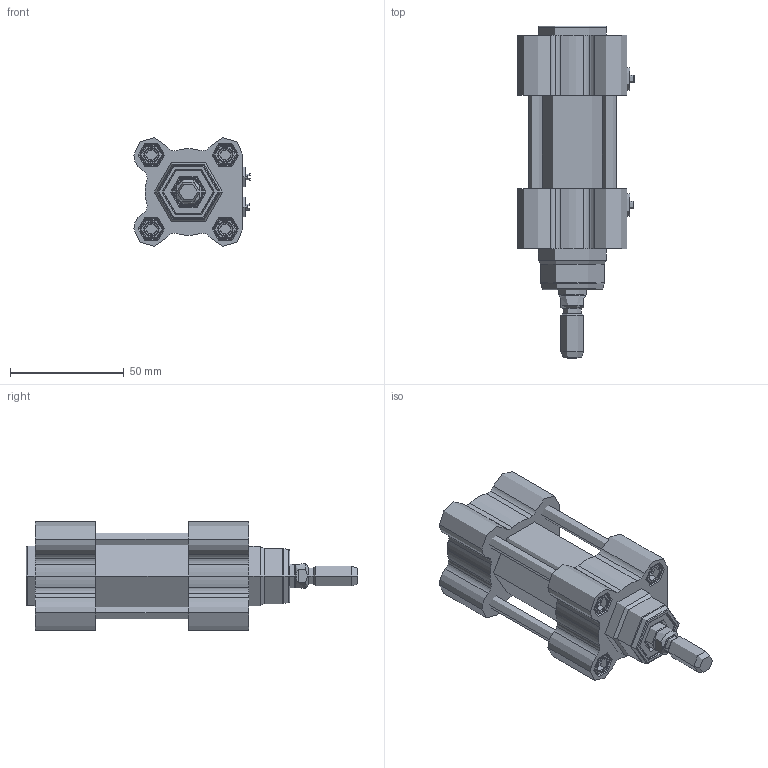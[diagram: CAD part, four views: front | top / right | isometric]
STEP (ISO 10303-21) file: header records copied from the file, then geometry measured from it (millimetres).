
FILE_DESCRIPTION(('STEP AP214'),'1');
FILE_NAME('81M32A0000.stp','2016-07-11T07:14:56',(' '),(' '),'Spatial InterOp 3D',' ',' ');
FILE_SCHEMA(('automotive_design'));
Length unit declared in the file: millimetre
Products named in the file (6): 81M32A0000; CORPO-000; TP; STELO-000; TA; TIRANTE-000
Assembly tree (8 placements, depth 2):
  81M32A0000
    CORPO-000
    TP
    STELO-000
    TA
    TIRANTE-000  x4
Bounding box: 51.2 x 146 x 47.77 mm (x, y, z)
Volume: 126203.9 mm3; surface area: 56599 mm2
Topology: 18 solids, 18 shells, 704 faces, 1574 edges, 954 vertices
Faces by surface type: cylinder 213, cone 203, plane 190, torus 88, revolution 10
Full cylindrical faces by diameter (mm): 1.75 x2, 7 x2, 22 x2
Entity records: 25715 total; most frequent: CARTESIAN_POINT 4414, DIRECTION 3631, ORIENTED_EDGE 3064, EDGE_CURVE 1532, AXIS2_PLACEMENT_3D 1531, VERTEX_POINT 930, CIRCLE 842, EDGE_LOOP 752
